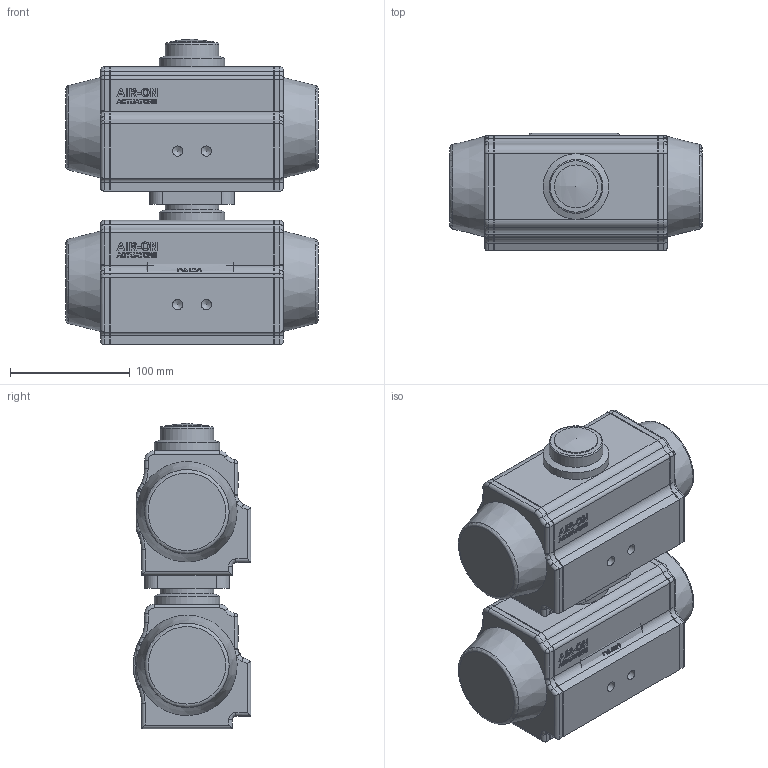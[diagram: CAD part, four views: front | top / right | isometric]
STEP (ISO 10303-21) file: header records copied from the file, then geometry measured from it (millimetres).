
FILE_DESCRIPTION( ( 'Unknown' ), '1' );
FILE_NAME( 'J:/Muud/ROOTSI BPS 3D vidinad/Kuulkraanid/Roostevaba kuulkraanid/Ball valve BPS 2411/Ball valve with pneumatic actuator BPS/STEP formaat/BPS 2411050P ball valve DN50.stp', 'Unknown', ( 'Unknown' ), ( 'Unknown' ), 'PSStep 10.1', 'Unknown', ' ' );
FILE_SCHEMA( ( 'AUTOMOTIVE_DESIGN { 1 0 10303 214 1 1 1 1 }' ) );
Length unit declared in the file: millimetre
Products named in the file (5): Assem1; BPS 2411050 ball valve DN50; BPS 8300075DA-SR pneumatic actuator
Bounding box: 211 x 98.5 x 255.5 mm (x, y, z)
Volume: 4243417.5 mm3; surface area: 407367 mm2
Topology: 8 solids, 8 shells, 968 faces, 2426 edges, 1572 vertices
Faces by surface type: plane 360, cylinder 208, extrusion 202, bspline 118, torus 46, cone 28, sphere 6
Full cylindrical faces by diameter (mm): 4.917 x8, 6.647 x8, 8.566 x4, 33 x2, 36 x2, 42 x2, 45 x2, 50 x2, 55 x2, 56.656 x4, 90 x2
Entity records: 24882 total; most frequent: CARTESIAN_POINT 10663, ORIENTED_EDGE 2234, DIRECTION 1675, EDGE_CURVE 1117, VERTEX_POINT 757, EDGE_LOOP 596, VECTOR 563, AXIS2_PLACEMENT_3D 556
